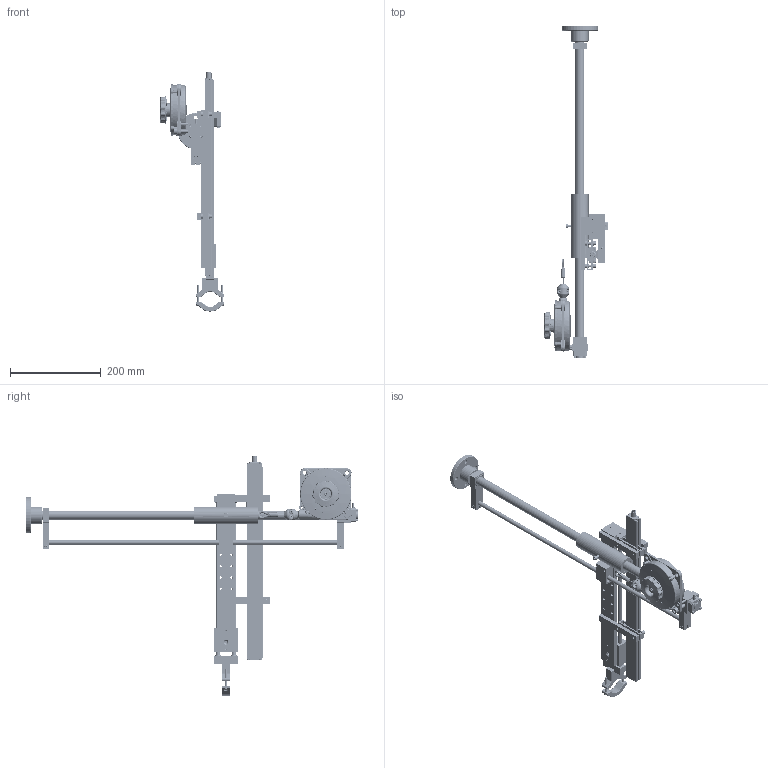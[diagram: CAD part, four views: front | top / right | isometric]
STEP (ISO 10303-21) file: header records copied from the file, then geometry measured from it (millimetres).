
FILE_DESCRIPTION (( 'STEP AP214' ), '1' );
FILE_NAME ('Braccio lineare con sens posizione.STEP', '2017-05-17T13:23:29', ( '' ), ( '' ), 'SwSTEP 2.0', 'SolidWorks 2016', '' );
FILE_SCHEMA (( 'AUTOMOTIVE_DESIGN' ));
Length unit declared in the file: millimetre
Products named in the file (1): Braccio lineare con sens posizione
Bounding box: 143.08 x 731.2 x 526.73 mm (x, y, z)
Surface area: 512795.6 mm2 (no closed solid volume)
Topology: 0 solids, 124 shells, 5497 faces, 12922 edges, 7702 vertices
Faces by surface type: plane 1508, cylinder 1332, torus 826, cone 797, bspline 792, sphere 242
Entity records: 246598 total; most frequent: CARTESIAN_POINT 63909, DIRECTION 25433, ORIENTED_EDGE 25402, EDGE_CURVE 12731, AXIS2_PLACEMENT_3D 10526, VERTEX_POINT 7688, EDGE_LOOP 6004, CIRCLE 5820
